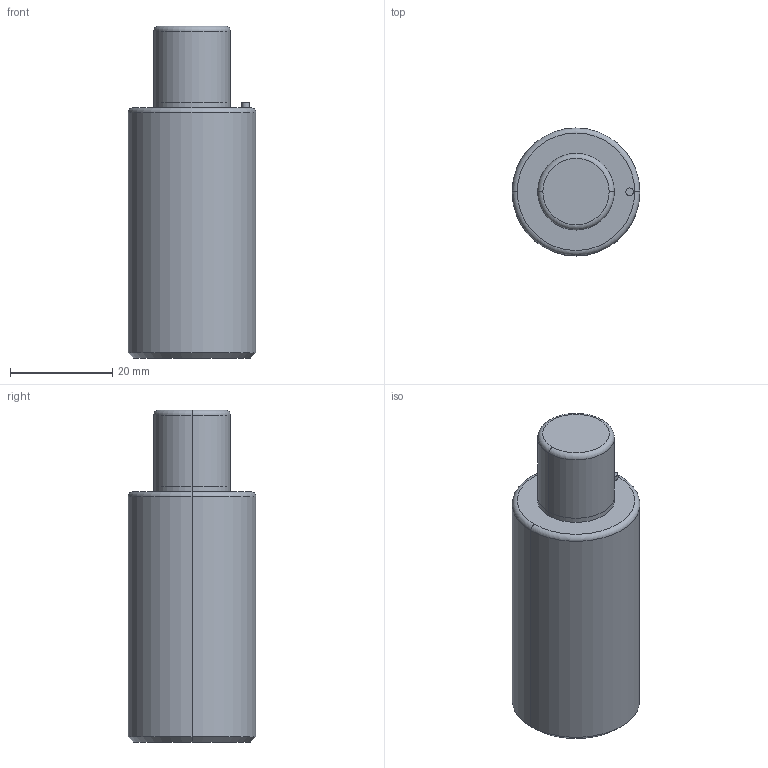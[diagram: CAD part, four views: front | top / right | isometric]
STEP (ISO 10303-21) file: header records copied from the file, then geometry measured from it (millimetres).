
FILE_DESCRIPTION(/* description */ (''),/* implementation_level */ '2;1');
FILE_NAME(/* name */ '3d_mgsc25-15_04572_r00.stp',/* time_stamp */ '2011-01-10T14:13:35+09:00',/* author */ ('MISUMI'),/* organization */ (''),/* preprocessor_version */ 'ST-DEVELOPER v11',/* originating_system */ 'UGS - NX 5.0',/* authorisation */ '');
FILE_SCHEMA (('CONFIG_CONTROL_DESIGN'));
Length unit declared in the file: millimetre
Products named in the file (1): 3d_mgsc25-15_04572_r00
Bounding box: 25 x 25 x 65 mm (x, y, z)
Volume: 26490.1 mm3; surface area: 5698.5 mm2
Topology: 1 solids, 1 shells, 24 faces, 48 edges, 27 vertices
Faces by surface type: cylinder 12, plane 4, torus 4, cone 4
Entity records: 698 total; most frequent: DIRECTION 126, CARTESIAN_POINT 98, ORIENTED_EDGE 92, AXIS2_PLACEMENT_3D 55, EDGE_CURVE 46, CIRCLE 30, EDGE_LOOP 27, VERTEX_POINT 27
